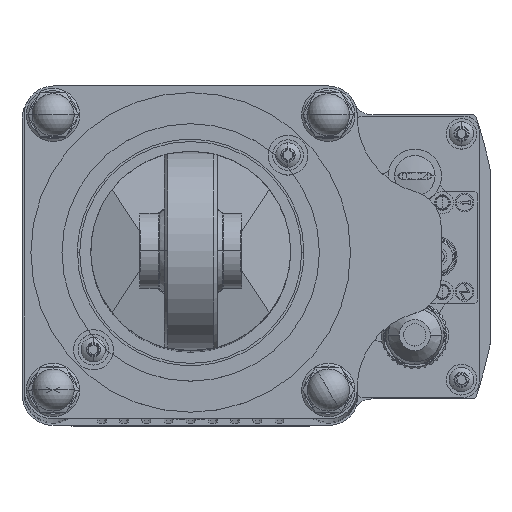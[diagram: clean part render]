
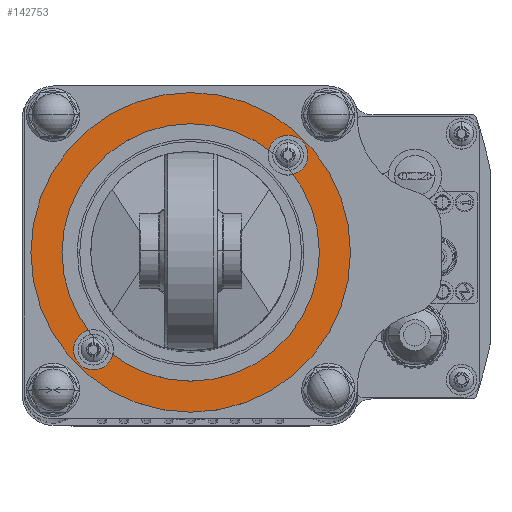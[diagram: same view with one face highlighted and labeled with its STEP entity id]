
A CAD part, top view. The second image highlights one B-rep face of the part: STEP entity #142753.
In plain terms, the highlighted planar face has unit normal (0, 0, 1).
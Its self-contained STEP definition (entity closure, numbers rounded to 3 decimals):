
#193 = CARTESIAN_POINT ( 'NONE',  ( 21.92, 21.92, 553.4 ) ) ;
#208 = AXIS2_PLACEMENT_3D ( 'NONE', #161904, #42439, #58047 ) ;
#3894 = ORIENTED_EDGE ( 'NONE', *, *, #61929, .F. ) ;
#5698 = CARTESIAN_POINT ( 'NONE',  ( 0., 0., 553.4 ) ) ;
#6374 = CARTESIAN_POINT ( 'NONE',  ( 0., 0., 553.4 ) ) ;
#6623 = ORIENTED_EDGE ( 'NONE', *, *, #95858, .T. ) ;
#6688 = ORIENTED_EDGE ( 'NONE', *, *, #32451, .F. ) ;
#6820 = DIRECTION ( 'NONE',  ( 1., 0., 0. ) ) ;
#8149 = VERTEX_POINT ( 'NONE', #154102 ) ;
#9690 = EDGE_CURVE ( 'NONE', #120646, #128742, #166239, .T. ) ;
#11292 = DIRECTION ( 'NONE',  ( 1., 0., 0. ) ) ;
#11306 = AXIS2_PLACEMENT_3D ( 'NONE', #26111, #47301, #11292 ) ;
#14043 = CARTESIAN_POINT ( 'NONE',  ( -36., 0., 553.4 ) ) ;
#15997 = EDGE_LOOP ( 'NONE', ( #55476, #62423 ) ) ;
#17543 = EDGE_CURVE ( 'NONE', #122802, #136042, #154124, .T. ) ;
#18917 = CARTESIAN_POINT ( 'NONE',  ( 21.92, 21.92, 553.4 ) ) ;
#20212 = EDGE_CURVE ( 'NONE', #128742, #120646, #122216, .T. ) ;
#24479 = AXIS2_PLACEMENT_3D ( 'NONE', #193, #90004, #135324 ) ;
#26111 = CARTESIAN_POINT ( 'NONE',  ( -21.92, -21.92, 553.4 ) ) ;
#26376 = CIRCLE ( 'NONE', #106710, 36. ) ;
#28596 = CARTESIAN_POINT ( 'NONE',  ( 29., 0., 553.4 ) ) ;
#32451 = EDGE_CURVE ( 'NONE', #99972, #8149, #167228, .T. ) ;
#42439 = DIRECTION ( 'NONE',  ( 0., 0., 1. ) ) ;
#47301 = DIRECTION ( 'NONE',  ( 0., 0., 1. ) ) ;
#47540 = PLANE ( 'NONE',  #91846 ) ;
#48167 = DIRECTION ( 'NONE',  ( 1., 0., 0. ) ) ;
#49266 = AXIS2_PLACEMENT_3D ( 'NONE', #5698, #98928, #152154 ) ;
#49681 = DIRECTION ( 'NONE',  ( 0., 0., 1. ) ) ;
#52664 = VERTEX_POINT ( 'NONE', #14043 ) ;
#55476 = ORIENTED_EDGE ( 'NONE', *, *, #155099, .F. ) ;
#58047 = DIRECTION ( 'NONE',  ( 1., 0., 0. ) ) ;
#61929 = EDGE_CURVE ( 'NONE', #8149, #99972, #64204, .T. ) ;
#62423 = ORIENTED_EDGE ( 'NONE', *, *, #17543, .F. ) ;
#64204 = CIRCLE ( 'NONE', #11306, 1.25 ) ;
#66806 = CARTESIAN_POINT ( 'NONE',  ( 20.67, 21.92, 553.4 ) ) ;
#66946 = CARTESIAN_POINT ( 'NONE',  ( 36., 0., 553.4 ) ) ;
#77485 = DIRECTION ( 'NONE',  ( 1., 0., 0. ) ) ;
#78895 = AXIS2_PLACEMENT_3D ( 'NONE', #18917, #112231, #6820 ) ;
#84403 = EDGE_CURVE ( 'NONE', #90378, #52664, #26376, .T. ) ;
#90004 = DIRECTION ( 'NONE',  ( 0., 0., 1. ) ) ;
#90378 = VERTEX_POINT ( 'NONE', #66946 ) ;
#91486 = EDGE_LOOP ( 'NONE', ( #6623, #129516 ) ) ;
#91846 = AXIS2_PLACEMENT_3D ( 'NONE', #104172, #115548, #169560 ) ;
#95858 = EDGE_CURVE ( 'NONE', #52664, #90378, #121020, .T. ) ;
#98928 = DIRECTION ( 'NONE',  ( 0., 0., 1. ) ) ;
#99972 = VERTEX_POINT ( 'NONE', #157304 ) ;
#101294 = DIRECTION ( 'NONE',  ( 0., 0., 1. ) ) ;
#101941 = CARTESIAN_POINT ( 'NONE',  ( 0., 0., 553.4 ) ) ;
#103267 = FACE_BOUND ( 'NONE', #152532, .T. ) ;
#104172 = CARTESIAN_POINT ( 'NONE',  ( 0., 0., 553.4 ) ) ;
#104310 = CARTESIAN_POINT ( 'NONE',  ( 23.17, 21.92, 553.4 ) ) ;
#106710 = AXIS2_PLACEMENT_3D ( 'NONE', #101941, #165661, #77485 ) ;
#108351 = AXIS2_PLACEMENT_3D ( 'NONE', #127272, #49681, #143085 ) ;
#112231 = DIRECTION ( 'NONE',  ( 0., 0., 1. ) ) ;
#115548 = DIRECTION ( 'NONE',  ( 0., 0., 1. ) ) ;
#117216 = FACE_BOUND ( 'NONE', #15997, .T. ) ;
#120646 = VERTEX_POINT ( 'NONE', #28596 ) ;
#120787 = ORIENTED_EDGE ( 'NONE', *, *, #20212, .F. ) ;
#121020 = CIRCLE ( 'NONE', #165641, 36. ) ;
#122216 = CIRCLE ( 'NONE', #108351, 29. ) ;
#122802 = VERTEX_POINT ( 'NONE', #66806 ) ;
#126862 = FACE_BOUND ( 'NONE', #142988, .T. ) ;
#127272 = CARTESIAN_POINT ( 'NONE',  ( 0., 0., 553.4 ) ) ;
#128742 = VERTEX_POINT ( 'NONE', #129633 ) ;
#129516 = ORIENTED_EDGE ( 'NONE', *, *, #84403, .T. ) ;
#129633 = CARTESIAN_POINT ( 'NONE',  ( -29., 0., 553.4 ) ) ;
#135324 = DIRECTION ( 'NONE',  ( 1., 0., 0. ) ) ;
#136042 = VERTEX_POINT ( 'NONE', #104310 ) ;
#141764 = FACE_OUTER_BOUND ( 'NONE', #91486, .T. ) ;
#142753 = ADVANCED_FACE ( 'NONE', ( #117216, #103267, #141764, #126862 ), #47540, .T. ) ;
#142988 = EDGE_LOOP ( 'NONE', ( #120787, #162052 ) ) ;
#143085 = DIRECTION ( 'NONE',  ( 1., 0., 0. ) ) ;
#152154 = DIRECTION ( 'NONE',  ( 1., 0., 0. ) ) ;
#152532 = EDGE_LOOP ( 'NONE', ( #6688, #3894 ) ) ;
#154102 = CARTESIAN_POINT ( 'NONE',  ( -23.17, -21.92, 553.4 ) ) ;
#154124 = CIRCLE ( 'NONE', #78895, 1.25 ) ;
#155099 = EDGE_CURVE ( 'NONE', #136042, #122802, #160938, .T. ) ;
#157304 = CARTESIAN_POINT ( 'NONE',  ( -20.67, -21.92, 553.4 ) ) ;
#160938 = CIRCLE ( 'NONE', #24479, 1.25 ) ;
#161904 = CARTESIAN_POINT ( 'NONE',  ( -21.92, -21.92, 553.4 ) ) ;
#162052 = ORIENTED_EDGE ( 'NONE', *, *, #9690, .F. ) ;
#165641 = AXIS2_PLACEMENT_3D ( 'NONE', #6374, #101294, #48167 ) ;
#165661 = DIRECTION ( 'NONE',  ( 0., 0., 1. ) ) ;
#166239 = CIRCLE ( 'NONE', #49266, 29. ) ;
#167228 = CIRCLE ( 'NONE', #208, 1.25 ) ;
#169560 = DIRECTION ( 'NONE',  ( 1., 0., 0. ) ) ;
